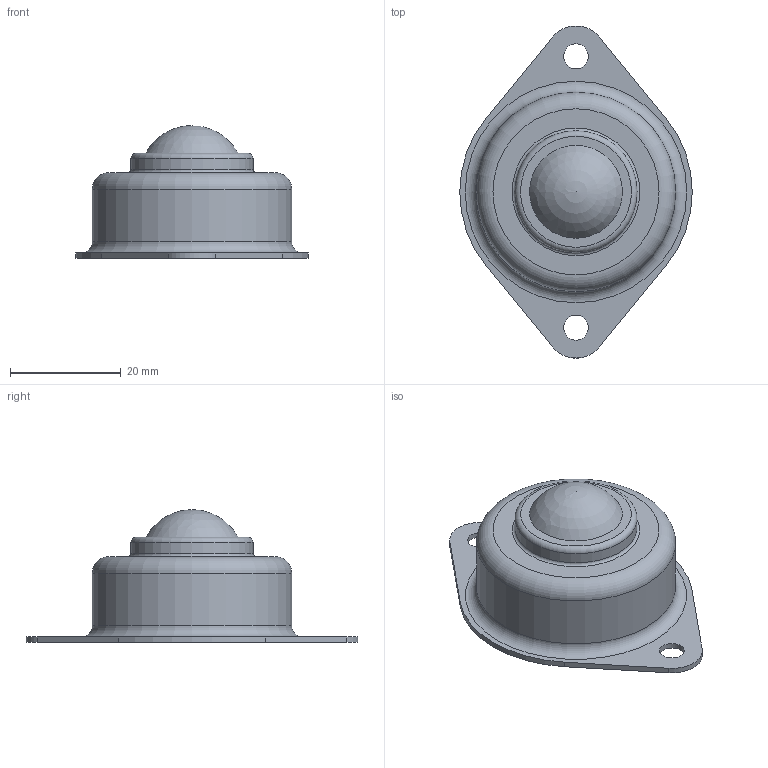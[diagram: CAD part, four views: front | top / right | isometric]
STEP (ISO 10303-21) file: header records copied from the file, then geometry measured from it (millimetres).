
FILE_DESCRIPTION(/* description */ (''),/* implementation_level */ '2;1');
FILE_NAME(/* name */ 'Z:\01-DesignData\標準品図面\★Web／カタログ用データ(型式別 3点Set)\019-IM 系\IM-20\3120AB.stp',/* time_stamp */ '2020-08-24T15:38:39+09:00',/* author */ ('torikawa'),/* organization */ (''),/* preprocessor_version */ 'ST-DEVELOPER v18.1',/* originating_system */ 'Autodesk Inventor 2020',/* authorisation */ '');
FILE_SCHEMA (('CONFIG_CONTROL_DESIGN'));
Length unit declared in the file: millimetre
Products named in the file (1): 3120AB
Bounding box: 42 x 59.96 x 24 mm (x, y, z)
Volume: 10829.5 mm3; surface area: 6803.2 mm2
Topology: 1 solids, 1 shells, 32 faces, 94 edges, 69 vertices
Faces by surface type: cylinder 11, plane 11, torus 8, sphere 2
Full cylindrical faces by diameter (mm): 0.6 x1, 4.5 x2, 22.05 x1, 32 x1, 35.2 x1, 36 x1
Entity records: 1184 total; most frequent: DIRECTION 229, CARTESIAN_POINT 195, ORIENTED_EDGE 186, AXIS2_PLACEMENT_3D 103, EDGE_CURVE 93, CIRCLE 70, VERTEX_POINT 69, EDGE_LOOP 42
